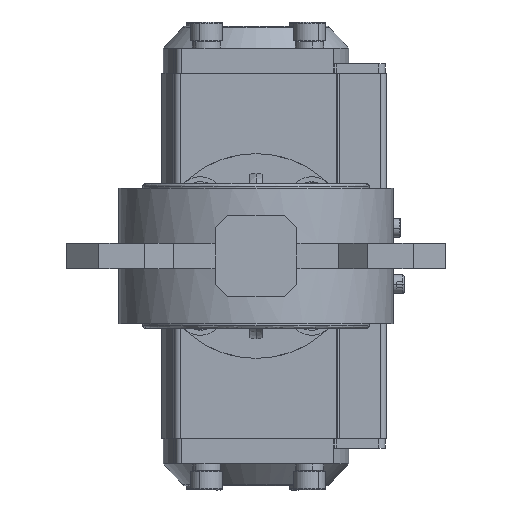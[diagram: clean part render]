
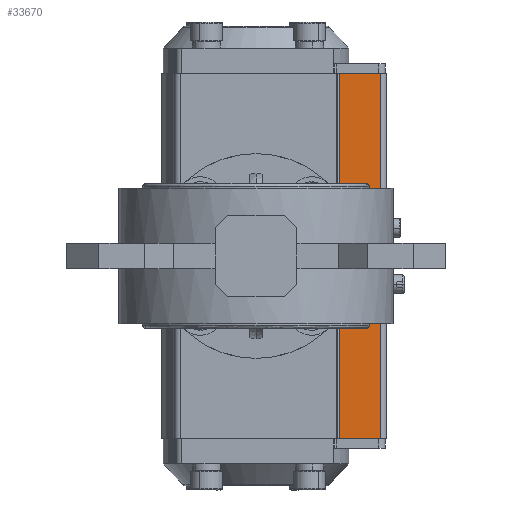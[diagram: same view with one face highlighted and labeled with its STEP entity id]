
A CAD part, front view. The second image highlights one B-rep face of the part: STEP entity #33670.
In plain terms, the highlighted planar face has unit normal (0, -1, 0).
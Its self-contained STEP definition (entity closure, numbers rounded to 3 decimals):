
#125 = CARTESIAN_POINT ( 'NONE',  ( 26.5, 157., -58. ) ) ;
#521 = DIRECTION ( 'NONE',  ( 0., 0., -1. ) ) ;
#1433 = FACE_OUTER_BOUND ( 'NONE', #43203, .T. ) ;
#1611 = CARTESIAN_POINT ( 'NONE',  ( 39.5, 157., 209.218 ) ) ;
#5016 = CARTESIAN_POINT ( 'NONE',  ( 26.5, 157., -58. ) ) ;
#9130 = CARTESIAN_POINT ( 'NONE',  ( 0., 157., -58. ) ) ;
#15490 = CARTESIAN_POINT ( 'NONE',  ( 26., 157., -58. ) ) ;
#18624 = VERTEX_POINT ( 'NONE', #50033 ) ;
#20670 = VECTOR ( 'NONE', #41100, 1000. ) ;
#24136 = PLANE ( 'NONE',  #25944 ) ;
#25944 = AXIS2_PLACEMENT_3D ( 'NONE', #15490, #49504, #43888 ) ;
#28238 = VECTOR ( 'NONE', #36016, 1000. ) ;
#29817 = ORIENTED_EDGE ( 'NONE', *, *, #50161, .F. ) ;
#31916 = CARTESIAN_POINT ( 'NONE',  ( 0., 157., 58. ) ) ;
#33483 = VERTEX_POINT ( 'NONE', #45087 ) ;
#33670 = ADVANCED_FACE ( 'NONE', ( #1433 ), #24136, .T. ) ;
#34746 = LINE ( 'NONE', #1611, #56928 ) ;
#36016 = DIRECTION ( 'NONE',  ( 1., 0., 0. ) ) ;
#36611 = CARTESIAN_POINT ( 'NONE',  ( 39.5, 157., 58. ) ) ;
#37948 = ORIENTED_EDGE ( 'NONE', *, *, #71214, .T. ) ;
#41100 = DIRECTION ( 'NONE',  ( 0., 0., -1. ) ) ;
#43203 = EDGE_LOOP ( 'NONE', ( #66703, #37948, #66348, #29817 ) ) ;
#43888 = DIRECTION ( 'NONE',  ( 0., 0., -1. ) ) ;
#45087 = CARTESIAN_POINT ( 'NONE',  ( 39.5, 157., -58. ) ) ;
#48874 = EDGE_CURVE ( 'NONE', #18624, #61857, #65521, .T. ) ;
#49504 = DIRECTION ( 'NONE',  ( 0., -1., 0. ) ) ;
#50033 = CARTESIAN_POINT ( 'NONE',  ( 26.5, 157., 58. ) ) ;
#50161 = EDGE_CURVE ( 'NONE', #61857, #33483, #34746, .T. ) ;
#51231 = LINE ( 'NONE', #125, #20670 ) ;
#56928 = VECTOR ( 'NONE', #521, 1000. ) ;
#59523 = LINE ( 'NONE', #9130, #70888 ) ;
#61857 = VERTEX_POINT ( 'NONE', #36611 ) ;
#64615 = VERTEX_POINT ( 'NONE', #5016 ) ;
#65521 = LINE ( 'NONE', #31916, #28238 ) ;
#66201 = DIRECTION ( 'NONE',  ( 1., 0., 0. ) ) ;
#66348 = ORIENTED_EDGE ( 'NONE', *, *, #73581, .T. ) ;
#66703 = ORIENTED_EDGE ( 'NONE', *, *, #48874, .F. ) ;
#70888 = VECTOR ( 'NONE', #66201, 1000. ) ;
#71214 = EDGE_CURVE ( 'NONE', #18624, #64615, #51231, .T. ) ;
#73581 = EDGE_CURVE ( 'NONE', #64615, #33483, #59523, .T. ) ;
